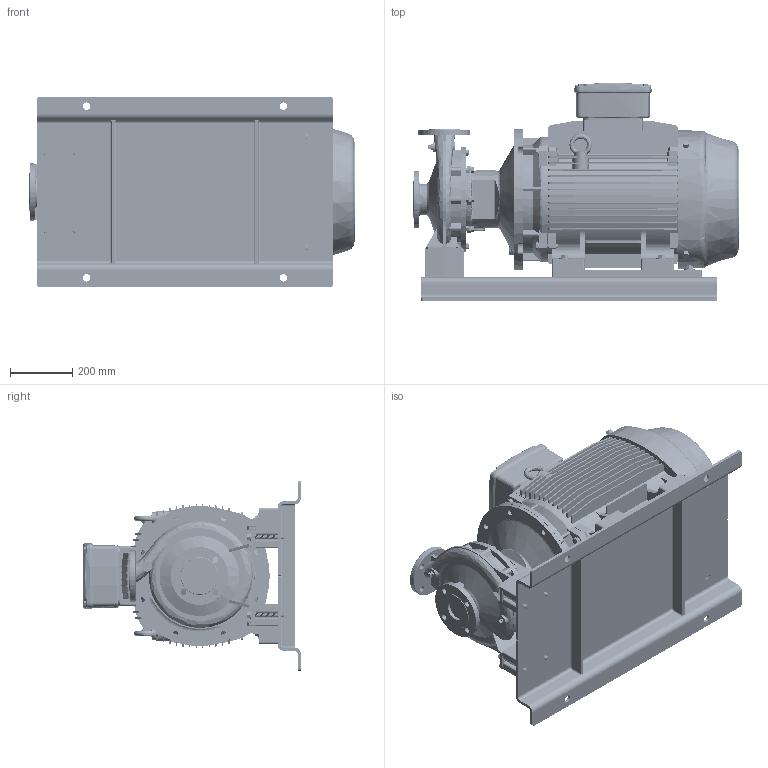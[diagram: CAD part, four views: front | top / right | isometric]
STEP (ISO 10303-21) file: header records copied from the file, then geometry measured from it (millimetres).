
FILE_DESCRIPTION (( 'STEP AP214' ), '1' );
FILE_NAME ('GSD2 50-250_45_(225SM)_W21_BP.STEP', '2024-05-10T04:49:07', ( '' ), ( '' ), 'SwSTEP 2.0', 'SolidWorks 2019', '' );
FILE_SCHEMA (( 'AUTOMOTIVE_DESIGN' ));
Length unit declared in the file: millimetre
Products named in the file (18): Parametric bolt and washer_SFT-A359B; Parametric bolt_SFT-A359B; 50-250-225S_M; 225S_M2P IE3_W21T_B35; 80x25 -CGSDA-5281 (225) (Offset); Parametric Stud Bolt_SFSK-AB311; Parametric bolt and washer_SFT-A355B; Parametric Flat Washer_M12; Parametric Flat Washer_M16; GSD2  50-250_45_(225SM)_W21_BP; CGS11-5311_2_3_4_5_CGS11-5315; Parametric Nut_M12; N7S3 GSDA-738 F1-1832951-00; Parametric bolt_SFT-A353B
Assembly tree (39 placements, depth 3):
  GSD2  50-250_45_(225SM)_W21_BP
    50-250-225S_M
    225S_M2P IE3_W21T_B35
    CGS11-5311_2_3_4_5_CGS11-5315  x4
    N7S3 GSDA-738 F1-1832951-00
    Parametric Stud Bolt_SFSK-AB311  x4
    Parametric Flat Washer_M12  x4
    Parametric Nut_M12  x4
    Parametric bolt and washer_SFT-A359B
      Parametric bolt_SFT-A359B
      Parametric Flat Washer_M16
    Parametric bolt and washer_SFT-A359B
      Parametric bolt_SFT-A359B
      Parametric Flat Washer_M16
    Parametric bolt and washer_SFT-A359B
      Parametric bolt_SFT-A359B
      Parametric Flat Washer_M16
    Parametric bolt and washer_SFT-A359B
      Parametric bolt_SFT-A359B
      Parametric Flat Washer_M16
    Parametric bolt and washer_SFT-A355B
      Parametric bolt_SFT-A353B
      Parametric Flat Washer_M16
    Parametric bolt and washer_SFT-A355B
      Parametric bolt_SFT-A353B
      Parametric Flat Washer_M16
    80x25 -CGSDA-5281 (225) (Offset)  x2
Bounding box: 1044.5 x 698 x 610 mm (x, y, z)
Volume: 127176721.4 mm3; surface area: 5913709.4 mm2
Topology: 43 solids, 49 shells, 4866 faces, 13040 edges, 8411 vertices
Faces by surface type: cylinder 1920, plane 1840, cone 546, torus 313, bspline 232, sphere 15
Entity records: 179192 total; most frequent: CARTESIAN_POINT 69271, ORIENTED_EDGE 21270, DIRECTION 19391, EDGE_CURVE 10635, AXIS2_PLACEMENT_3D 7130, VERTEX_POINT 6849, VECTOR 5131, LINE 5131
